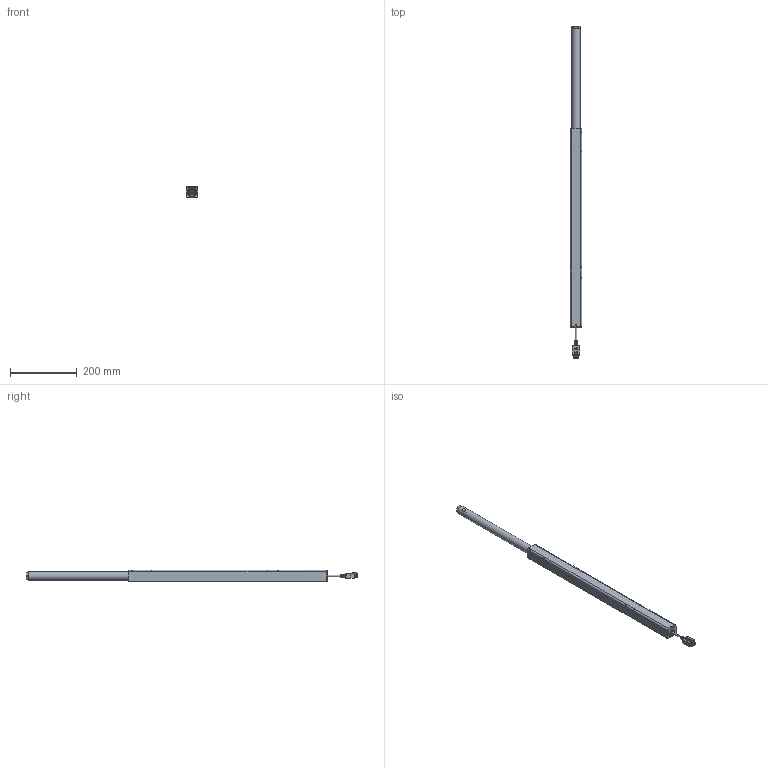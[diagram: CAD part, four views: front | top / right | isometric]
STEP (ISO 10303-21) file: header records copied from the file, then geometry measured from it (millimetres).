
FILE_DESCRIPTION(/* description */ ('Unknown'),/* implementation_level */ '2;1');
FILE_NAME(/* name */ '903.02003_00-Ausgefahren',/* time_stamp */ '2022-02-03T11:56:37+01:00',/* author */ ('Unknown'),/* organization */ ('Unknown'),/* preprocessor_version */ 'ST-DEVELOPER v18.1',/* originating_system */ 'Solid Edge',/* authorisation */ 'Unknown');
FILE_SCHEMA (('AUTOMOTIVE_DESIGN {1 0 10303 214 3 1 1}'));
Products named in the file (9): 903.02003; 142.00014; 119.00450; 122.00005; 123.00110; 125.00051; 128.00025; Kabel Molex_kurz; 142.00275
Assembly tree (13 placements, depth 2):
  903.02003
    142.00014  x4
    119.00450
    122.00005
    123.00110
    125.00051
    128.00025  x2
    Kabel Molex_kurz
    142.00275  x2
Bounding box: 35 x 991.5 x 35 mm (x, y, z)
Volume: 350093.7 mm3; surface area: 221848 mm2
Topology: 13 solids, 13 shells, 2720 faces, 7570 edges, 4949 vertices
Faces by surface type: plane 1815, cylinder 650, bspline 98, torus 88, cone 53, sphere 16
Full cylindrical faces by diameter (mm): 1.25 x2, 2.459 x2, 2.6 x10, 3 x2, 4 x12, 4.134 x6, 5 x1, 6.647 x1, 8.376 x2, 17.3 x1, 19 x1, 20.8 x3, 21 x2, 25 x2, 30 x2
Entity records: 58085 total; most frequent: CARTESIAN_POINT 12725, ORIENTED_EDGE 8808, DIRECTION 8271, EDGE_CURVE 4404, LINE 3143, VECTOR 3143, VERTEX_POINT 2917, AXIS2_PLACEMENT_3D 2564
